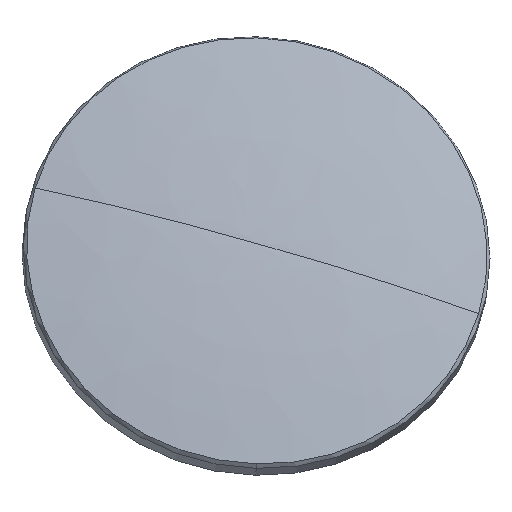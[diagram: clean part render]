
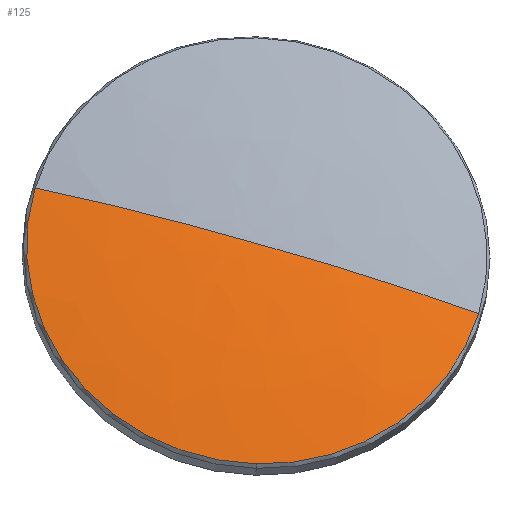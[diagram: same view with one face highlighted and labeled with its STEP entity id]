
A CAD part, top view. The second image highlights one B-rep face of the part: STEP entity #125.
In plain terms, the highlighted free-form (B-spline) face has degree [3, 3] with [4, 4] control points.
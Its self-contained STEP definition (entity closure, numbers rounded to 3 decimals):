
#6 = DIRECTION ( 'NONE',  ( -0.062, -0.383, -0.922 ) ) ;
#13 = DIRECTION ( 'NONE',  ( -0.062, -0.383, -0.922 ) ) ;
#16 = EDGE_CURVE ( 'NONE', #145, #160, #34, .T. ) ;
#22 = CARTESIAN_POINT ( 'NONE',  ( 4.015, 122.251, 369.181 ) ) ;
#26 = AXIS2_PLACEMENT_3D ( 'NONE', #382, #6, #314 ) ;
#30 = CARTESIAN_POINT ( 'NONE',  ( 34.152, 136.276, 357.97 ) ) ;
#34 = CIRCLE ( 'NONE', #66, 37.008 ) ;
#44 = CARTESIAN_POINT ( 'NONE',  ( -1.413, 146.351, 356.176 ) ) ;
#51 = CIRCLE ( 'NONE', #106, 200. ) ;
#60 = CARTESIAN_POINT ( 'NONE',  ( -25.096, 153.909, 356.927 ) ) ;
#66 = AXIS2_PLACEMENT_3D ( 'NONE', #44, #13, #323 ) ;
#83 = EDGE_CURVE ( 'NONE', #160, #258, #51, .T. ) ;
#90 = CARTESIAN_POINT ( 'NONE',  ( -36.978, 156.427, 354.382 ) ) ;
#95 = FACE_OUTER_BOUND ( 'NONE', #180, .T. ) ;
#103 = DIRECTION ( 'NONE',  ( -0.961, 0.272, -0.048 ) ) ;
#104 = EDGE_CURVE ( 'NONE', #231, #258, #118, .T. ) ;
#106 = AXIS2_PLACEMENT_3D ( 'NONE', #289, #287, #103 ) ;
#114 = CARTESIAN_POINT ( 'NONE',  ( 22.532, 140.416, 359.329 ) ) ;
#116 = CARTESIAN_POINT ( 'NONE',  ( -13.146, 150.914, 358.425 ) ) ;
#118 = CIRCLE ( 'NONE', #146, 200. ) ;
#125 = ADVANCED_FACE ( 'NONE', ( #95 ), #293, .T. ) ;
#145 = VERTEX_POINT ( 'NONE', #175 ) ;
#146 = AXIS2_PLACEMENT_3D ( 'NONE', #393, #147, #238 ) ;
#147 = DIRECTION ( 'NONE',  ( -0.269, -0.883, 0.385 ) ) ;
#160 = VERTEX_POINT ( 'NONE', #90 ) ;
#175 = CARTESIAN_POINT ( 'NONE',  ( -1.413, 112.177, 370.378 ) ) ;
#179 = CARTESIAN_POINT ( 'NONE',  ( 14.205, 70.941, 386.464 ) ) ;
#180 = EDGE_LOOP ( 'NONE', ( #213, #291, #262, #332 ) ) ;
#182 = CARTESIAN_POINT ( 'NONE',  ( -1.232, 147.467, 358.862 ) ) ;
#209 = CARTESIAN_POINT ( 'NONE',  ( -38.452, 110.162, 376.006 ) ) ;
#210 = CARTESIAN_POINT ( 'NONE',  ( -36.978, 156.427, 354.382 ) ) ;
#212 = CARTESIAN_POINT ( 'NONE',  ( -1.232, 147.467, 358.862 ) ) ;
#213 = ORIENTED_EDGE ( 'NONE', *, *, #411, .F. ) ;
#216 = CIRCLE ( 'NONE', #26, 37.008 ) ;
#231 = VERTEX_POINT ( 'NONE', #30 ) ;
#238 = DIRECTION ( 'NONE',  ( 0.961, -0.272, 0.048 ) ) ;
#240 = CARTESIAN_POINT ( 'NONE',  ( -56.925, 91.092, 382.876 ) ) ;
#242 = CARTESIAN_POINT ( 'NONE',  ( -1.232, 147.467, 358.862 ) ) ;
#258 = VERTEX_POINT ( 'NONE', #275 ) ;
#262 = ORIENTED_EDGE ( 'NONE', *, *, #83, .F. ) ;
#269 = CARTESIAN_POINT ( 'NONE',  ( -1.232, 147.467, 358.862 ) ) ;
#275 = CARTESIAN_POINT ( 'NONE',  ( -1.232, 147.467, 358.862 ) ) ;
#287 = DIRECTION ( 'NONE',  ( 0.269, 0.883, -0.385 ) ) ;
#289 = CARTESIAN_POINT ( 'NONE',  ( -16.395, 71.653, 174.411 ) ) ;
#291 = ORIENTED_EDGE ( 'NONE', *, *, #104, .T. ) ;
#293 =( BOUNDED_SURFACE ( )  B_SPLINE_SURFACE ( 3, 3, ( 
 ( #363, #179, #240, #210 ),
 ( #114, #367, #209, #60 ),
 ( #334, #22, #394, #116 ),
 ( #182, #269, #242, #212 ) ),
 .UNSPECIFIED., .F., .F., .T. ) 
 B_SPLINE_SURFACE_WITH_KNOTS ( ( 4, 4 ),
 ( 4, 4 ),
 ( 0., 1. ),
 ( 0., 1. ),
 .UNSPECIFIED. ) 
 GEOMETRIC_REPRESENTATION_ITEM ( )  RATIONAL_B_SPLINE_SURFACE ( (
 ( 1., 0.333, 0.333, 1.),
 ( 0.997, 0.332, 0.332, 0.997),
 ( 0.997, 0.332, 0.332, 0.997),
 ( 1., 0.333, 0.333, 1.) ) ) 
 REPRESENTATION_ITEM ( '' )  SURFACE ( )  );
#314 = DIRECTION ( 'NONE',  ( -0.961, 0.272, -0.048 ) ) ;
#323 = DIRECTION ( 'NONE',  ( -0.961, 0.272, -0.048 ) ) ;
#332 = ORIENTED_EDGE ( 'NONE', *, *, #16, .F. ) ;
#334 = CARTESIAN_POINT ( 'NONE',  ( 10.704, 144.157, 359.628 ) ) ;
#363 = CARTESIAN_POINT ( 'NONE',  ( 34.152, 136.276, 357.97 ) ) ;
#367 = CARTESIAN_POINT ( 'NONE',  ( 9.176, 96.669, 378.409 ) ) ;
#382 = CARTESIAN_POINT ( 'NONE',  ( -1.413, 146.351, 356.176 ) ) ;
#393 = CARTESIAN_POINT ( 'NONE',  ( -10.875, 70.089, 174.689 ) ) ;
#394 = CARTESIAN_POINT ( 'NONE',  ( -19.834, 129.008, 367.978 ) ) ;
#411 = EDGE_CURVE ( 'NONE', #231, #145, #216, .T. ) ;
